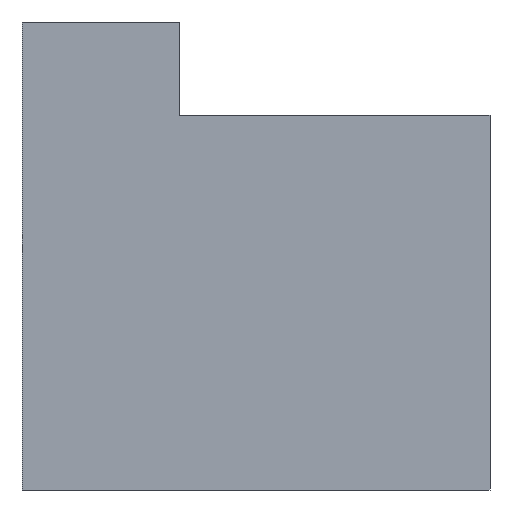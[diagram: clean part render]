
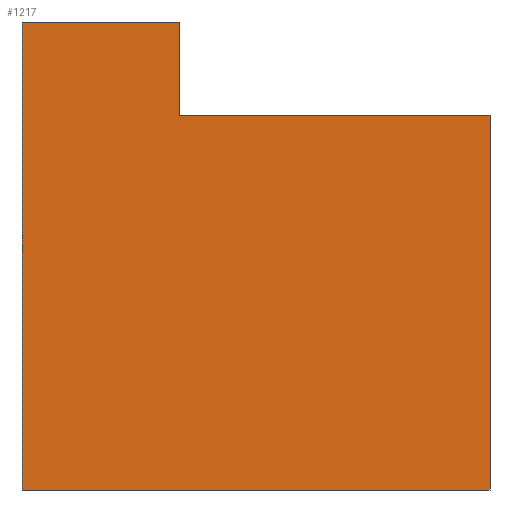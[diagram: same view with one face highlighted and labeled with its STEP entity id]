
A CAD part, left-side view. The second image highlights one B-rep face of the part: STEP entity #1217.
In plain terms, the highlighted planar face has unit normal (-1, 0, 0).
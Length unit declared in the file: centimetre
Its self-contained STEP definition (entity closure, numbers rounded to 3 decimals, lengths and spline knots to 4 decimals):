
#30 = EDGE_CURVE ( 'NONE', #651, #165, #1319, .T. ) ;
#96 = CARTESIAN_POINT ( 'NONE',  ( 0., 1000., 1000. ) ) ;
#104 = CARTESIAN_POINT ( 'NONE',  ( 0., 663.6964, 800.4842 ) ) ;
#148 = LINE ( 'NONE', #828, #981 ) ;
#165 = VERTEX_POINT ( 'NONE', #1342 ) ;
#218 = ORIENTED_EDGE ( 'NONE', *, *, #292, .F. ) ;
#273 = DIRECTION ( 'NONE',  ( 0., -1., 0. ) ) ;
#280 = VECTOR ( 'NONE', #273, 100. ) ;
#292 = EDGE_CURVE ( 'NONE', #360, #165, #1172, .T. ) ;
#318 = CARTESIAN_POINT ( 'NONE',  ( 0., 1000., 0. ) ) ;
#330 = EDGE_CURVE ( 'NONE', #510, #360, #950, .T. ) ;
#360 = VERTEX_POINT ( 'NONE', #945 ) ;
#375 = CARTESIAN_POINT ( 'NONE',  ( 0., 1000., 1000. ) ) ;
#387 = VECTOR ( 'NONE', #453, 100. ) ;
#402 = DIRECTION ( 'NONE',  ( 1., 0., 0. ) ) ;
#411 = DIRECTION ( 'NONE',  ( 0., -1., 0. ) ) ;
#453 = DIRECTION ( 'NONE',  ( 0., 0., -1. ) ) ;
#469 = ORIENTED_EDGE ( 'NONE', *, *, #944, .F. ) ;
#504 = PLANE ( 'NONE',  #1095 ) ;
#507 = EDGE_LOOP ( 'NONE', ( #218, #868, #469, #1074, #1276, #736 ) ) ;
#510 = VERTEX_POINT ( 'NONE', #104 ) ;
#544 = CARTESIAN_POINT ( 'NONE',  ( 0., 663.6964, 800.4842 ) ) ;
#626 = DIRECTION ( 'NONE',  ( 0., 0., -1. ) ) ;
#651 = VERTEX_POINT ( 'NONE', #1142 ) ;
#694 = EDGE_CURVE ( 'NONE', #1438, #859, #148, .T. ) ;
#736 = ORIENTED_EDGE ( 'NONE', *, *, #30, .T. ) ;
#759 = DIRECTION ( 'NONE',  ( 0., -1., 0. ) ) ;
#812 = VECTOR ( 'NONE', #759, 100. ) ;
#825 = DIRECTION ( 'NONE',  ( 0., 0., -1. ) ) ;
#828 = CARTESIAN_POINT ( 'NONE',  ( 0., 1000., 1000. ) ) ;
#859 = VERTEX_POINT ( 'NONE', #1158 ) ;
#868 = ORIENTED_EDGE ( 'NONE', *, *, #330, .F. ) ;
#881 = DIRECTION ( 'NONE',  ( 0., 0., -1. ) ) ;
#936 = FACE_OUTER_BOUND ( 'NONE', #507, .T. ) ;
#944 = EDGE_CURVE ( 'NONE', #859, #510, #993, .T. ) ;
#945 = CARTESIAN_POINT ( 'NONE',  ( 0., 0., 800.4842 ) ) ;
#950 = LINE ( 'NONE', #1398, #280 ) ;
#981 = VECTOR ( 'NONE', #411, 100. ) ;
#993 = LINE ( 'NONE', #544, #1177 ) ;
#1035 = CARTESIAN_POINT ( 'NONE',  ( 0., 1000., 1000. ) ) ;
#1074 = ORIENTED_EDGE ( 'NONE', *, *, #694, .F. ) ;
#1077 = EDGE_CURVE ( 'NONE', #1438, #651, #1255, .T. ) ;
#1095 = AXIS2_PLACEMENT_3D ( 'NONE', #375, #402, #825 ) ;
#1142 = CARTESIAN_POINT ( 'NONE',  ( 0., 1000., 0. ) ) ;
#1158 = CARTESIAN_POINT ( 'NONE',  ( 0., 663.6964, 1000. ) ) ;
#1166 = VECTOR ( 'NONE', #626, 100. ) ;
#1172 = LINE ( 'NONE', #1185, #1166 ) ;
#1177 = VECTOR ( 'NONE', #881, 100. ) ;
#1185 = CARTESIAN_POINT ( 'NONE',  ( 0., 0., 1000. ) ) ;
#1217 = ADVANCED_FACE ( 'NONE', ( #936 ), #504, .F. ) ;
#1255 = LINE ( 'NONE', #1035, #387 ) ;
#1276 = ORIENTED_EDGE ( 'NONE', *, *, #1077, .T. ) ;
#1319 = LINE ( 'NONE', #318, #812 ) ;
#1342 = CARTESIAN_POINT ( 'NONE',  ( 0., 0., 0. ) ) ;
#1398 = CARTESIAN_POINT ( 'NONE',  ( 0., 663.6964, 800.4842 ) ) ;
#1438 = VERTEX_POINT ( 'NONE', #96 ) ;
